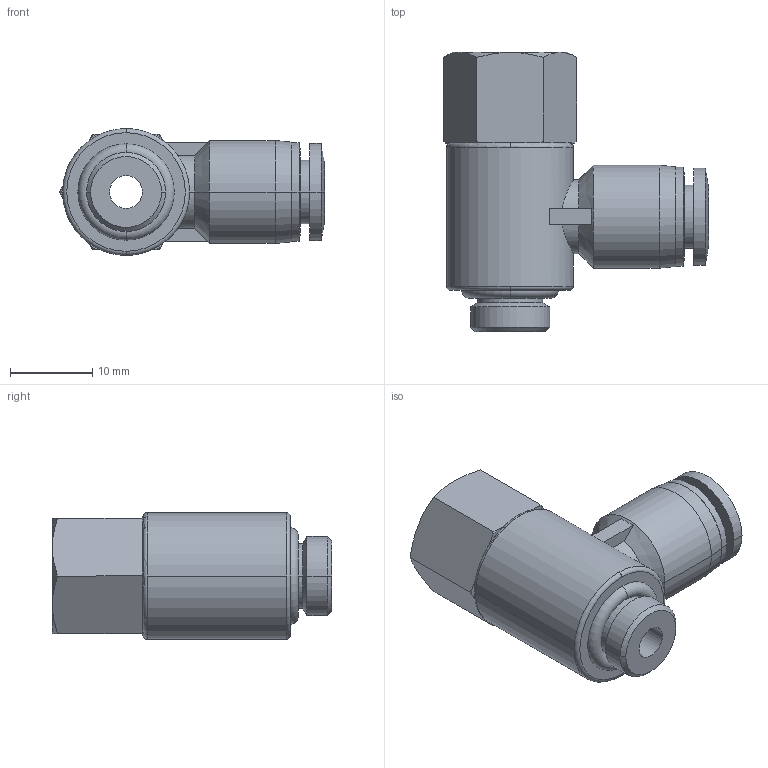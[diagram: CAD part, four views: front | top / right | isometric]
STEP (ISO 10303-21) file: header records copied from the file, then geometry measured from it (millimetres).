
FILE_DESCRIPTION (( 'STEP AP203' ), '1' );
FILE_NAME ('FVF06-01.STEP', '2020-05-11T14:28:30', ( '' ), ( '' ), 'SwSTEP 2.0', 'SolidWorks 2019', '' );
FILE_SCHEMA (( 'CONFIG_CONTROL_DESIGN' ));
Length unit declared in the file: millimetre
Products named in the file (1): FVF06-01
Bounding box: 32.18 x 33.9 x 15.4 mm (x, y, z)
Volume: 5819.6 mm3; surface area: 3718.2 mm2
Topology: 1 solids, 1 shells, 92 faces, 219 edges, 134 vertices
Faces by surface type: plane 33, cone 26, cylinder 25, torus 6, bspline 2
Entity records: 2896 total; most frequent: CARTESIAN_POINT 720, DIRECTION 467, ORIENTED_EDGE 438, EDGE_CURVE 219, AXIS2_PLACEMENT_3D 197, VERTEX_POINT 134, CIRCLE 106, EDGE_LOOP 101
